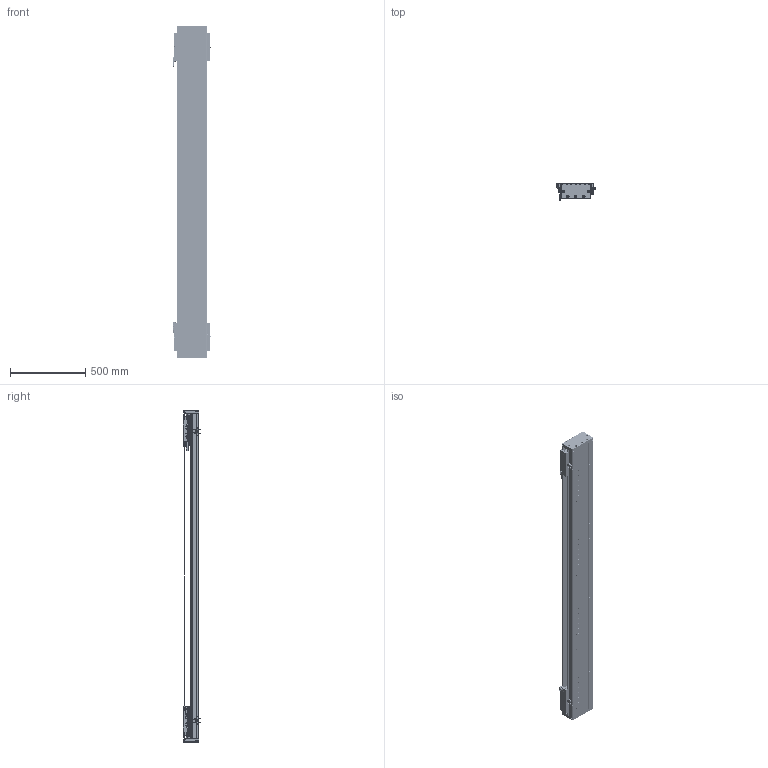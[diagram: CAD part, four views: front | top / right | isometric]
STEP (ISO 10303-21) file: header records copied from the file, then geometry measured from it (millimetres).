
FILE_DESCRIPTION (( 'STEP AP203' ), '1' );
FILE_NAME ('DA-C195-2-C2-T1700-C010-0.2 眻盄萇儂.STEP', '2025-08-14T02:07:09', ( '' ), ( '' ), 'SwSTEP 2.0', 'SolidWorks 2019', '' );
FILE_SCHEMA (( 'CONFIG_CONTROL_DESIGN' ));
Length unit declared in the file: millimetre
Products named in the file (19): DA195詩湍菜輸-1; LMT黍杅芛-1; DA195詩湍郪璃-1; DA195詩湍嶺輸-1; DA95-HXJ-00 遣喳砎蝶-1; DKW-GYP-ZJ-00 笢潔嫖萇覜茼え-1; PM-T45ㄗ侂狟ㄘ-1; DA-C195-2-C2-T1700-C010-0.2 眻盄萇儂; DKW168-HXJ-ZJ-00 笢潔滅袉砎蝶-1; DA-C195-GD-DB-H-00 傷啣-1; DKW-KGZ-ZJ-00 中间光电开关支架-1; DA165-GYP-00 光电感应片(默认)-1; MS200 棠掑喜S315-T1740-1; DA195詩湍裔啣-1; IU-CU195-L-00 菁釱(L2160); PM-Y65嫖萇羲壽郪璃-1; 葩璃 DA95-GT-T-00-1; CU195-C2賑輸-俋楷-1; IU-CU195-L 菁釱絳寢-1
Assembly tree (37 placements, depth 3):
  DA-C195-2-C2-T1700-C010-0.2 眻盄萇儂
    DA195詩湍郪璃-1
      DA195詩湍菜輸-1  x2
      DA195詩湍裔啣-1
      DA195詩湍嶺輸-1  x2
      DA95-HXJ-00 遣喳砎蝶-1  x8
      DA-C195-GD-DB-H-00 傷啣-1  x2
    IU-CU195-L 菁釱絳寢-1
      IU-CU195-L-00 菁釱(L2160)
      葩璃 DA95-GT-T-00-1  x4
    LMT黍杅芛-1  x2
    MS200 棠掑喜S315-T1740-1
    PM-T45ㄗ侂狟ㄘ-1  x4
    DA165-GYP-00 光电感应片(默认)-1  x2
    PM-Y65嫖萇羲壽郪璃-1
    DKW168-HXJ-ZJ-00 笢潔滅袉砎蝶-1
    DKW-GYP-ZJ-00 笢潔嫖萇覜茼え-1
    DKW-KGZ-ZJ-00 中间光电开关支架-1
    CU195-C2賑輸-俋楷-1  x2
Bounding box: 258.2 x 115.45 x 2200 mm (x, y, z)
Volume: 14148179.3 mm3; surface area: 4066349.9 mm2
Topology: 114 solids, 242 shells, 6825 faces, 17879 edges, 11089 vertices
Faces by surface type: cylinder 3124, plane 2617, cone 916, torus 88, sphere 72, bspline 8
Entity records: 141431 total; most frequent: CARTESIAN_POINT 36619, ORIENTED_EDGE 21590, DIRECTION 21050, EDGE_CURVE 10795, AXIS2_PLACEMENT_3D 7737, VERTEX_POINT 6976, VECTOR 5576, LINE 5576
